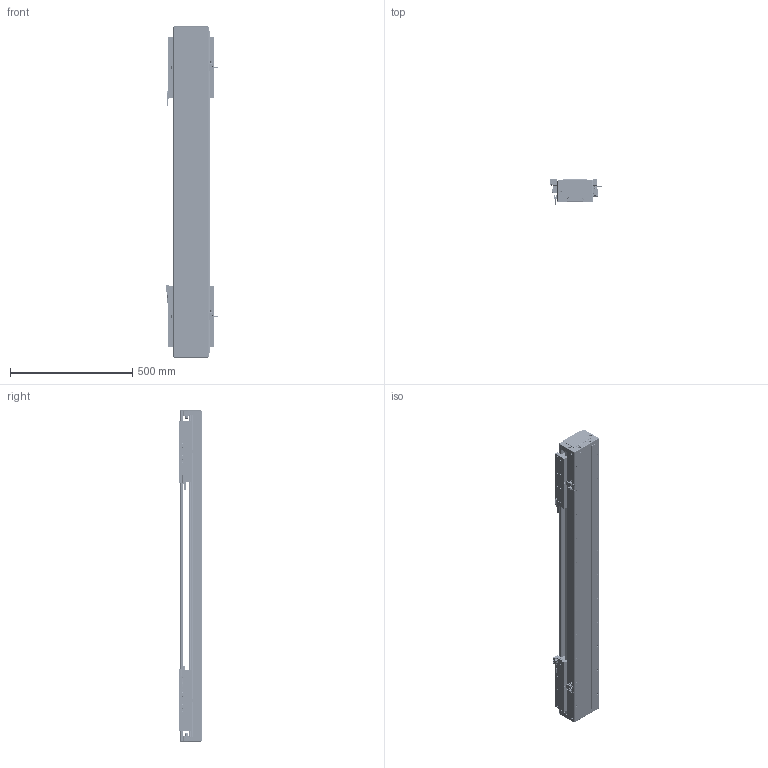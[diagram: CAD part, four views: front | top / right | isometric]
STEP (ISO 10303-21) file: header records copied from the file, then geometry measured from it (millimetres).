
FILE_DESCRIPTION (( 'STEP AP203' ), '1' );
FILE_NAME ('DA-C145-2-C3-T740-C010-0.2 眻盄萇儂.STEP', '2025-08-13T10:17:14', ( '' ), ( '' ), 'SwSTEP 2.0', 'SolidWorks 2019', '' );
FILE_SCHEMA (( 'CONFIG_CONTROL_DESIGN' ));
Length unit declared in the file: millimetre
Products named in the file (35): IU-CU145-L-00 菁釱(L1320); 66245-CU145-HT-W-00 賑雄怢啣(3D芞祧)(00); 复件 DA145-GYP-00 光电感应片^DA-C145-2-C3-T-C010-0.2; 葩璃 DA145-C3-DP-A-00 菜えA^CU145-W 幗紩賑怢; DKW-KGZ-ZJ-00 中间光电开关支架; 葩璃 DA95-GT-T-00^IU-CU145-L 菁釱絳寢; 葩璃 DMA-010-0.2 黍杅芛^DA-C145-2-C3-T-C010-0.2; 复件 DA95-HK-GT-00 滑块钢轨^CU145-W-00 一体化滑动台板; TAY01-M8; 复件 纯铜油杯 6x6mm^CU145-W 滚珠滑台; CU145-W-00 珨极趙賑雄怢啣-1; 葩璃 DA145-T-003-00 裔啣^DA-C145-2-C3-T-C010-0.2; CU145-W-00 珨极趙賑雄怢啣; 葩璃 PM-T45^DA-C145-2-C3-T-C010-0.2; 葩璃 DA145-C3-DP-B-00 菜えB^CU145-W 幗紩賑怢; DKW-GYP-ZJ-00 笢潔嫖萇覜茼え; DA-C145-2-C3-T740-C010-0.2 眻盄萇儂; CU145-W 幗紩賑怢; 复件 DA145-C3-YB-B-00 压板B^CU145-W 滚珠滑台; 复件 半圆头内六角螺钉 M3×6^CU145-W 滚珠滑台; 葩璃 CKM03-W060-C1C2-TP-0.2^DA-C145-2-C3-T-C010-0.2; 葩璃 DA145-DG-H-N-00 傷裔^DA-C145-2-C3-T-C010-0.2; CU145-W 幗紩賑怢-1; 葩璃 PM-Y65^DA-C145-2-C3-T-C010-0.2; 复件 DA145-C3-DK-00 挡块^CU145-W 滚珠滑台; DKW168-HXJ-ZJ-00 笢潔滅袉砎蝶; 复件 DA95-MFP-01 密封片^CU145-W 滚珠滑台; 葩璃 DA95-HXJ-00 遣喳砎蝶^DA-C145-2-C3-T-C010-0.2; IU-CU145-L 菁釱絳寢; 复件 DA145-C3-YB-A-00 压板A^CU145-W 滚珠滑台; 葩璃 鞠褒情蹟譫 M3^DA-C145-2-C3-T-C010-0.2; 复件 DA95-DB-00  挡板^CU145-W 滚珠滑台; 葩璃 XD-U-02L 棠掑喜^DA-C145-2-C3-T-C010-0.2; 复件 内六角平端紧定螺钉 GB.T77-2000 M5×10^CU145-W 滚珠滑台; 葩璃 CKMA01-W060-TRL^DA-C145-2-C3-T-C010-0.2
Assembly tree (175 placements, depth 4):
  DA-C145-2-C3-T740-C010-0.2 眻盄萇儂
    IU-CU145-L 菁釱絳寢
      IU-CU145-L-00 菁釱(L1320)
      葩璃 DA95-GT-T-00^IU-CU145-L 菁釱絳寢  x4
    CU145-W 幗紩賑怢
      CU145-W-00 珨极趙賑雄怢啣
        66245-CU145-HT-W-00 賑雄怢啣(3D芞祧)(00)
        复件 DA95-HK-GT-00 滑块钢轨^CU145-W-00 一体化滑动台板  x8
      复件 DA95-MFP-01 密封片^CU145-W 滚珠滑台  x8
      复件 DA95-DB-00  挡板^CU145-W 滚珠滑台  x8
      复件 内六角平端紧定螺钉 GB.T77-2000 M5×10^CU145-W 滚珠滑台  x4
      复件 纯铜油杯 6x6mm^CU145-W 滚珠滑台  x4
      复件 半圆头内六角螺钉 M3×6^CU145-W 滚珠滑台  x16
      复件 DA145-C3-DK-00 挡块^CU145-W 滚珠滑台  x4
      葩璃 DA145-C3-DP-B-00 菜えB^CU145-W 幗紩賑怢  x2
      复件 DA145-C3-YB-B-00 压板B^CU145-W 滚珠滑台  x2
      葩璃 DA145-C3-DP-A-00 菜えA^CU145-W 幗紩賑怢  x3
      复件 DA145-C3-YB-A-00 压板A^CU145-W 滚珠滑台  x3
      TAY01-M8  x4
    CU145-W 幗紩賑怢-1
      CU145-W-00 珨极趙賑雄怢啣-1
        66245-CU145-HT-W-00 賑雄怢啣(3D芞祧)(00)
        复件 DA95-HK-GT-00 滑块钢轨^CU145-W-00 一体化滑动台板  x8
      复件 DA95-MFP-01 密封片^CU145-W 滚珠滑台  x8
      复件 DA95-DB-00  挡板^CU145-W 滚珠滑台  x8
      复件 内六角平端紧定螺钉 GB.T77-2000 M5×10^CU145-W 滚珠滑台  x4
      复件 纯铜油杯 6x6mm^CU145-W 滚珠滑台  x4
      复件 半圆头内六角螺钉 M3×6^CU145-W 滚珠滑台  x16
      复件 DA145-C3-DK-00 挡块^CU145-W 滚珠滑台  x4
      葩璃 DA145-C3-DP-B-00 菜えB^CU145-W 幗紩賑怢  x2
      复件 DA145-C3-YB-B-00 压板B^CU145-W 滚珠滑台  x2
      葩璃 DA145-C3-DP-A-00 菜えA^CU145-W 幗紩賑怢  x3
      复件 DA145-C3-YB-A-00 压板A^CU145-W 滚珠滑台  x3
      TAY01-M8  x4
    葩璃 CKMA01-W060-TRL^DA-C145-2-C3-T-C010-0.2
    葩璃 PM-T45^DA-C145-2-C3-T-C010-0.2  x4
    葩璃 XD-U-02L 棠掑喜^DA-C145-2-C3-T-C010-0.2
    葩璃 DA145-DG-H-N-00 傷裔^DA-C145-2-C3-T-C010-0.2  x2
    葩璃 DA145-T-003-00 裔啣^DA-C145-2-C3-T-C010-0.2
    葩璃 DA95-HXJ-00 遣喳砎蝶^DA-C145-2-C3-T-C010-0.2  x4
    葩璃 CKM03-W060-C1C2-TP-0.2^DA-C145-2-C3-T-C010-0.2  x2
    葩璃 DMA-010-0.2 黍杅芛^DA-C145-2-C3-T-C010-0.2  x2
    复件 DA145-GYP-00 光电感应片^DA-C145-2-C3-T-C010-0.2  x2
    DKW-GYP-ZJ-00 笢潔嫖萇覜茼え
    DKW-KGZ-ZJ-00 中间光电开关支架
    葩璃 PM-Y65^DA-C145-2-C3-T-C010-0.2
    葩璃 鞠褒情蹟譫 M3^DA-C145-2-C3-T-C010-0.2  x8
    DKW168-HXJ-ZJ-00 笢潔滅袉砎蝶
Bounding box: 213.7 x 108.45 x 1360 mm (x, y, z)
Volume: 10258662 mm3; surface area: 2892099.7 mm2
Topology: 171 solids, 235 shells, 6987 faces, 18226 edges, 11183 vertices
Faces by surface type: plane 2934, cylinder 2765, cone 1120, torus 152, sphere 8, bspline 8
Entity records: 110637 total; most frequent: CARTESIAN_POINT 28070, DIRECTION 15641, ORIENTED_EDGE 15616, EDGE_CURVE 7808, AXIS2_PLACEMENT_3D 5687, VERTEX_POINT 5032, VECTOR 4267, LINE 4267
